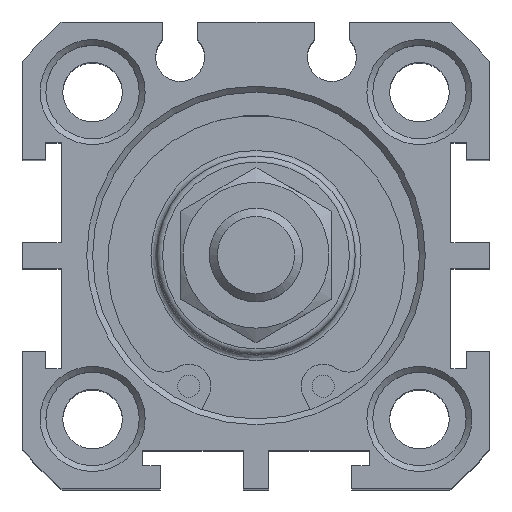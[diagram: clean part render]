
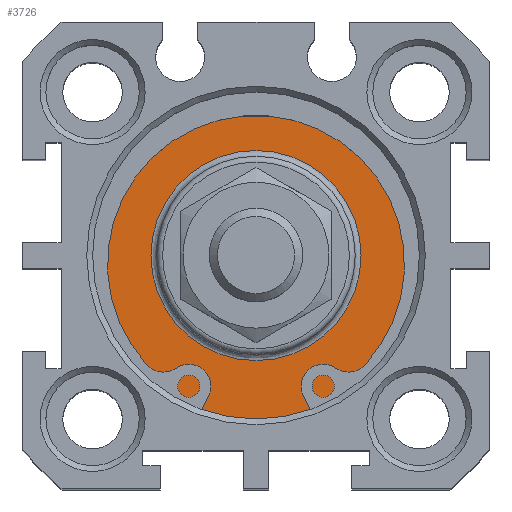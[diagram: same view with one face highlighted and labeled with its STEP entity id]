
A CAD part, top view. The second image highlights one B-rep face of the part: STEP entity #3726.
In plain terms, the highlighted planar face has unit normal (0, 0, 1).
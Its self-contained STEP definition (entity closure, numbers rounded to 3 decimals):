
#3675=CARTESIAN_POINT('',(0.12,10.914,48.3));
#3676=VERTEX_POINT('',#3675);
#3677=CARTESIAN_POINT('',(0.12,1.914,48.3));
#3678=DIRECTION('',(0.0,0.0,1.0));
#3679=DIRECTION('',(0.0,-1.0,0.0));
#3680=AXIS2_PLACEMENT_3D('',#3677,#3678,#3679);
#3681=CIRCLE('',#3680,9.);
#3682=EDGE_CURVE('',#3676,#3676,#3681,.T.);
#3707=CARTESIAN_POINT('',(0.12,13.164,48.3));
#3708=DIRECTION('',(0.0,0.0,1.0));
#3709=DIRECTION('',(1.0,0.0,0.0));
#3710=AXIS2_PLACEMENT_3D('',#3707,#3708,#3709);
#3711=PLANE('',#3710);
#3712=CARTESIAN_POINT('',(0.12,15.914,48.3));
#3713=VERTEX_POINT('',#3712);
#3714=CARTESIAN_POINT('',(0.12,1.914,48.3));
#3715=DIRECTION('',(0.0,0.0,-1.0));
#3716=DIRECTION('',(0.0,1.0,0.0));
#3717=AXIS2_PLACEMENT_3D('',#3714,#3715,#3716);
#3718=CIRCLE('',#3717,14.0);
#3719=EDGE_CURVE('',#3713,#3713,#3718,.T.);
#3720=ORIENTED_EDGE('',*,*,#3719,.F.);
#3721=EDGE_LOOP('',(#3720));
#3722=FACE_OUTER_BOUND('',#3721,.T.);
#3723=ORIENTED_EDGE('',*,*,#3682,.F.);
#3724=EDGE_LOOP('',(#3723));
#3725=FACE_BOUND('',#3724,.T.);
#3726=ADVANCED_FACE('',(#3722,#3725),#3711,.T.);
